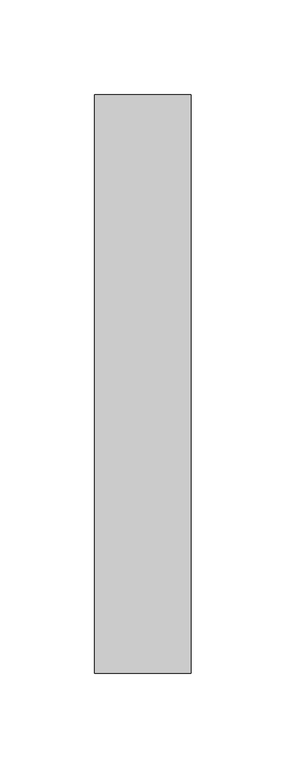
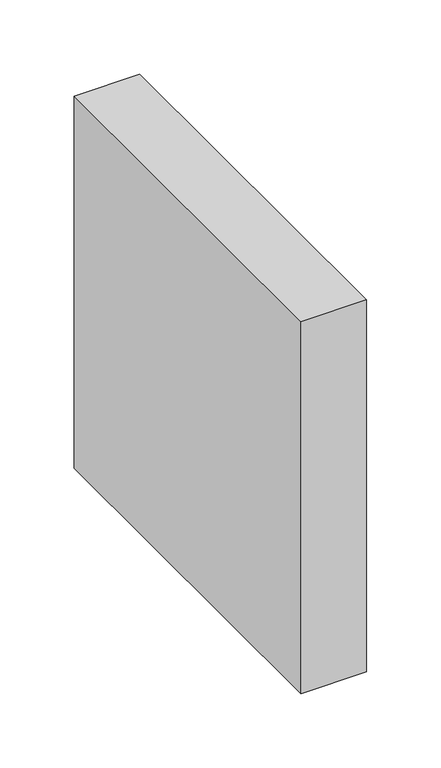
"""IFC4 building model written with IfcOpenShell, lengths in millimetres: proxy geometry, CCN^CANTILEVER BRACKET_.5x12x12."""

from ifc_helpers import new_model, si_unit, frame, origin, place, context, project, spatial, polyline, outline, extrude, source, transform, mapped, element, save


def generic_models_cf6981da(model_context):
    return source(origin(), model_context, "Body", "SweptSolid", [
        extrude(outline(polyline([(0.0, 0.0), (0.0, 304.8), (50.8, 304.8), (50.8, 0.0), (0.0, 0.0)])), frame((0.0, 0.0, -304.8), z_axis=(0.0, 0.0, 1.0), x_axis=(1.0, 0.0, 0.0)), (0.0, 0.0, 1.0), 304.8),
    ])


if __name__ == "__main__":
    model = new_model("IFC4")
    model_context = context("Model", 3, world=origin())
    ifc_project = project(units=[si_unit("LENGTHUNIT", "METRE", prefix="MILLI")], contexts=[model_context])
    site = spatial("IfcSite", under=ifc_project)
    building = spatial("IfcBuilding", under=site)
    placement = place(None, origin())
    generic_models_shape = generic_models_cf6981da(model_context)
    element("IfcBuildingElementProxy", 1, Name="CCN^CANTILEVER BRACKET_.5x12x12", ObjectType="CCN^CANTILEVER BRACKET_.5x12x12", at=placement, inside=building, context=model_context, shape_type="MappedRepresentation", body=[
        mapped(generic_models_shape, transform((0.0, 0.0, 0.0), x_axis=(1.0, 0.0, 0.0), y_axis=(0.0, 1.0, 0.0), z_axis=(0.0, 0.0, 1.0))),
    ])
    save(model, "model.ifc")
